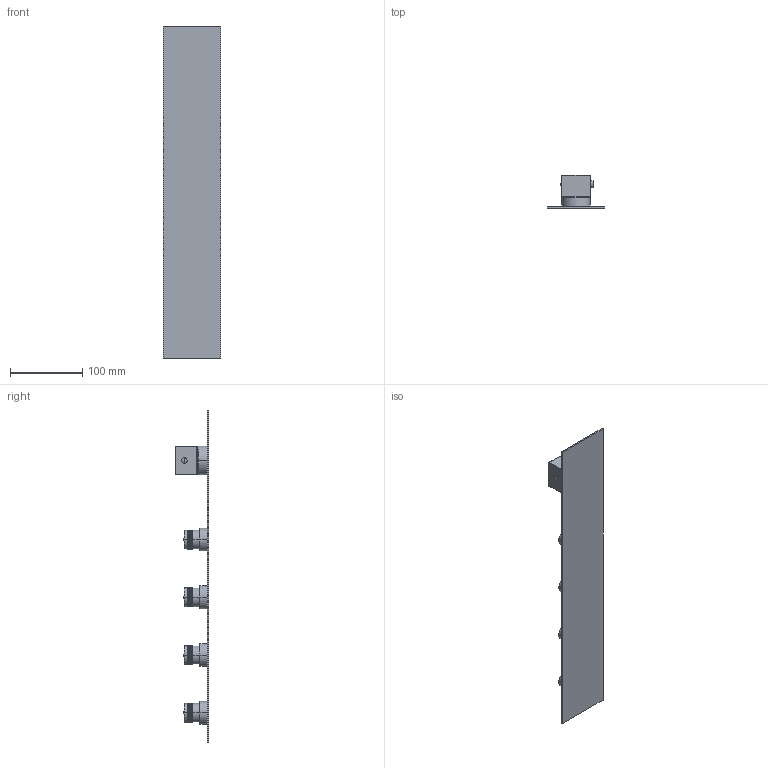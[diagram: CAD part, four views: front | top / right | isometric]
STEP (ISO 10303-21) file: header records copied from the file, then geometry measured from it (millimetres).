
FILE_DESCRIPTION((''),'2;1');
FILE_NAME('35600V4_SW0001','2026-03-05T09:33:36',('carloff'),(''),'CREO PARAMETRIC BY PTC INC, 2022014','CREO PARAMETRIC BY PTC INC, 2022014','');
FILE_SCHEMA(('CONFIG_CONTROL_DESIGN'));
Products named in the file (1): 35600V4_SW0001
Bounding box: 80 x 46.3 x 460 mm (x, y, z)
Volume: 218879.4 mm3; surface area: 95399.1 mm2
Topology: 1 solids, 1 shells, 6804 faces, 16520 edges, 10837 vertices
Faces by surface type: bspline 5120, cylinder 1390, plane 258, torus 22, sphere 14
Entity records: 281936 total; most frequent: CARTESIAN_POINT 157531, ORIENTED_EDGE 33020, EDGE_CURVE 16510, VERTEX_POINT 10837, B_SPLINE_CURVE_WITH_KNOTS 10384, DIRECTION 10198, EDGE_LOOP 7933, FACE_OUTER_BOUND 6804
